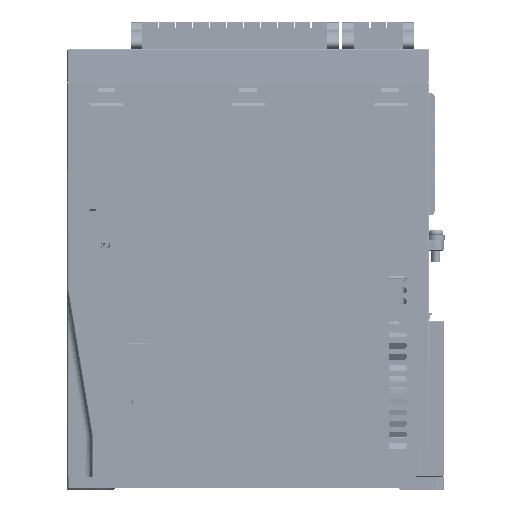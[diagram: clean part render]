
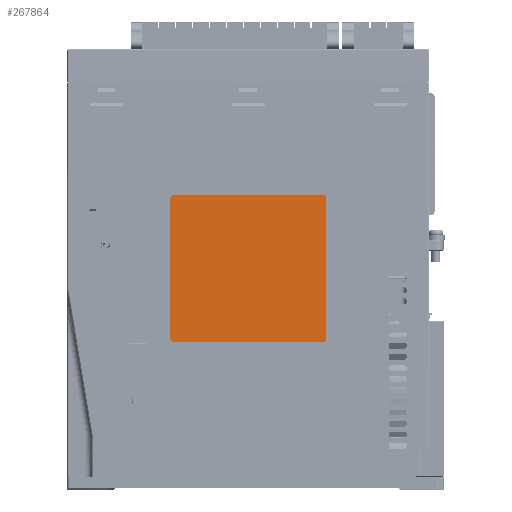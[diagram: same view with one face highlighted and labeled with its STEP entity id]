
A CAD part, left-side view. The second image highlights one B-rep face of the part: STEP entity #267864.
In plain terms, the highlighted planar face has unit normal (-1, 0, 0).
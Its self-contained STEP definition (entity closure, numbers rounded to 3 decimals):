
#29193=LINE('',#455164,#61148);
#29196=LINE('',#455170,#61151);
#29198=LINE('',#455175,#61153);
#29202=LINE('',#455182,#61157);
#61148=VECTOR('',#341277,63.);
#61151=VECTOR('',#341282,67.);
#61153=VECTOR('',#341286,63.);
#61157=VECTOR('',#341292,67.);
#74573=PLANE('',#285467);
#90189=FACE_OUTER_BOUND('',#106321,.T.);
#106321=EDGE_LOOP('',(#234720,#234721,#234722,#234723,#234724,#234725,#234726,
#234727));
#115022=CIRCLE('',#285468,1.5);
#115023=CIRCLE('',#285469,1.5);
#115024=CIRCLE('',#285470,1.5);
#115025=CIRCLE('',#285471,1.5);
#136928=VERTEX_POINT('',#455161);
#136929=VERTEX_POINT('',#455163);
#136930=VERTEX_POINT('',#455167);
#136931=VERTEX_POINT('',#455169);
#136932=VERTEX_POINT('',#455173);
#136933=VERTEX_POINT('',#455174);
#136934=VERTEX_POINT('',#455179);
#136935=VERTEX_POINT('',#455181);
#171307=EDGE_CURVE('',#136929,#136928,#29193,.T.);
#171310=EDGE_CURVE('',#136931,#136930,#29196,.T.);
#171312=EDGE_CURVE('',#136932,#136933,#29198,.T.);
#171316=EDGE_CURVE('',#136935,#136934,#29202,.T.);
#171318=EDGE_CURVE('',#136934,#136932,#115022,.T.);
#171319=EDGE_CURVE('',#136933,#136931,#115023,.T.);
#171320=EDGE_CURVE('',#136930,#136929,#115024,.T.);
#171321=EDGE_CURVE('',#136928,#136935,#115025,.T.);
#234720=ORIENTED_EDGE('',*,*,#171316,.T.);
#234721=ORIENTED_EDGE('',*,*,#171318,.T.);
#234722=ORIENTED_EDGE('',*,*,#171312,.T.);
#234723=ORIENTED_EDGE('',*,*,#171319,.T.);
#234724=ORIENTED_EDGE('',*,*,#171310,.T.);
#234725=ORIENTED_EDGE('',*,*,#171320,.T.);
#234726=ORIENTED_EDGE('',*,*,#171307,.T.);
#234727=ORIENTED_EDGE('',*,*,#171321,.T.);
#267864=ADVANCED_FACE('',(#90189),#74573,.T.);
#285467=AXIS2_PLACEMENT_3D('',#455184,#341294,#341295);
#285468=AXIS2_PLACEMENT_3D('',#455185,#341296,#341297);
#285469=AXIS2_PLACEMENT_3D('',#455186,#341298,#341299);
#285470=AXIS2_PLACEMENT_3D('',#455187,#341300,#341301);
#285471=AXIS2_PLACEMENT_3D('',#455188,#341302,#341303);
#341277=DIRECTION('',(0.,0.,-1.));
#341282=DIRECTION('',(0.,1.,0.));
#341286=DIRECTION('',(0.,0.,1.));
#341292=DIRECTION('',(0.,-1.,0.));
#341294=DIRECTION('center_axis',(-1.,0.,0.));
#341295=DIRECTION('ref_axis',(0.,0.,1.));
#341296=DIRECTION('center_axis',(-1.,0.,0.));
#341297=DIRECTION('ref_axis',(0.,0.,1.));
#341298=DIRECTION('center_axis',(-1.,0.,0.));
#341299=DIRECTION('ref_axis',(0.,0.,1.));
#341300=DIRECTION('center_axis',(-1.,0.,0.));
#341301=DIRECTION('ref_axis',(0.,0.,1.));
#341302=DIRECTION('center_axis',(-1.,0.,0.));
#341303=DIRECTION('ref_axis',(0.,0.,1.));
#455161=CARTESIAN_POINT('',(-165.667,50.905,-30.));
#455163=CARTESIAN_POINT('',(-165.667,50.905,33.));
#455164=CARTESIAN_POINT('',(-165.667,50.905,-31.5));
#455167=CARTESIAN_POINT('',(-165.667,49.405,34.5));
#455169=CARTESIAN_POINT('',(-165.667,-17.595,34.5));
#455170=CARTESIAN_POINT('',(-165.667,-19.095,34.5));
#455173=CARTESIAN_POINT('',(-165.667,-19.095,-30.));
#455174=CARTESIAN_POINT('',(-165.667,-19.095,33.));
#455175=CARTESIAN_POINT('',(-165.667,-19.095,-31.5));
#455179=CARTESIAN_POINT('',(-165.667,-17.595,-31.5));
#455181=CARTESIAN_POINT('',(-165.667,49.405,-31.5));
#455182=CARTESIAN_POINT('',(-165.667,-19.095,-31.5));
#455184=CARTESIAN_POINT('Origin',(-165.667,50.905,34.5));
#455185=CARTESIAN_POINT('Origin',(-165.667,-17.595,-30.));
#455186=CARTESIAN_POINT('Origin',(-165.667,-17.595,33.));
#455187=CARTESIAN_POINT('Origin',(-165.667,49.405,33.));
#455188=CARTESIAN_POINT('Origin',(-165.667,49.405,-30.));
